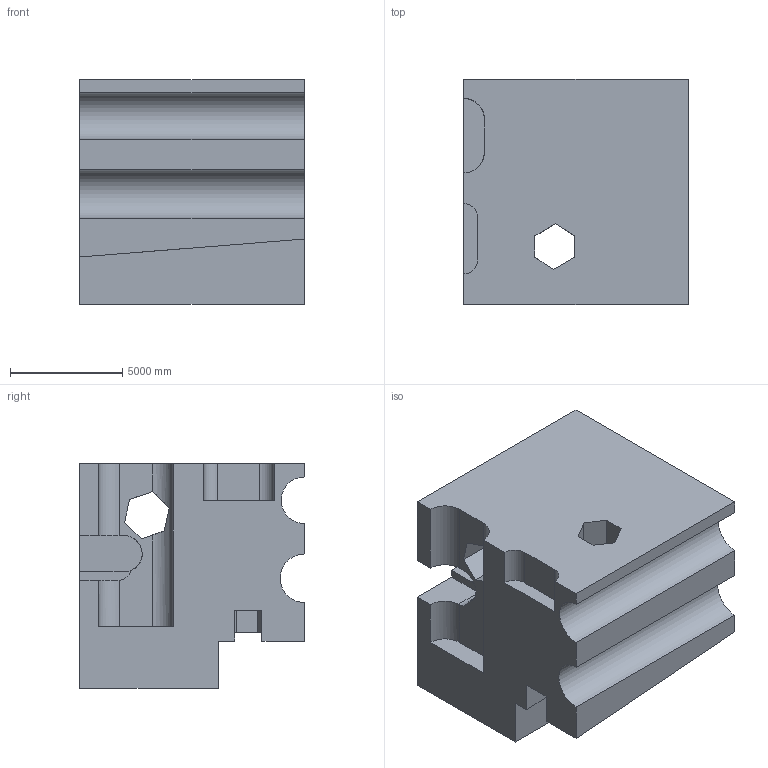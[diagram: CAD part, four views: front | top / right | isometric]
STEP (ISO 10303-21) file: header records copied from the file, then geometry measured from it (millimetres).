
FILE_DESCRIPTION (( 'STEP AP203' ), '1' );
FILE_NAME ('1978.STEP', '2022-08-23T10:11:46', ( 'user' ), ( '' ), 'SwSTEP 2.0', 'SolidWorks 2021', '' );
FILE_SCHEMA (( 'CONFIG_CONTROL_DESIGN' ));
Length unit declared in the file: centimetre
Products named in the file (1): 1978
Bounding box: 10000 x 10000 x 10000 mm (x, y, z)
Volume: 759770292115 mm3; surface area: 741277375.4 mm2
Topology: 1 solids, 1 shells, 47 faces, 141 edges, 94 vertices
Faces by surface type: plane 38, cylinder 9
Entity records: 1660 total; most frequent: CARTESIAN_POINT 298, ORIENTED_EDGE 282, DIRECTION 251, EDGE_CURVE 141, LINE 117, VECTOR 117, VERTEX_POINT 94, AXIS2_PLACEMENT_3D 67
